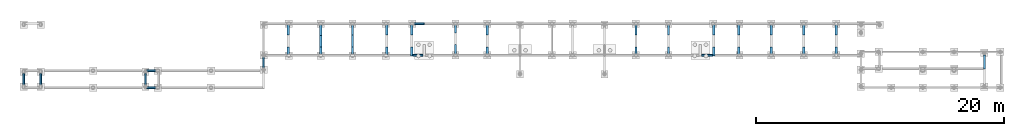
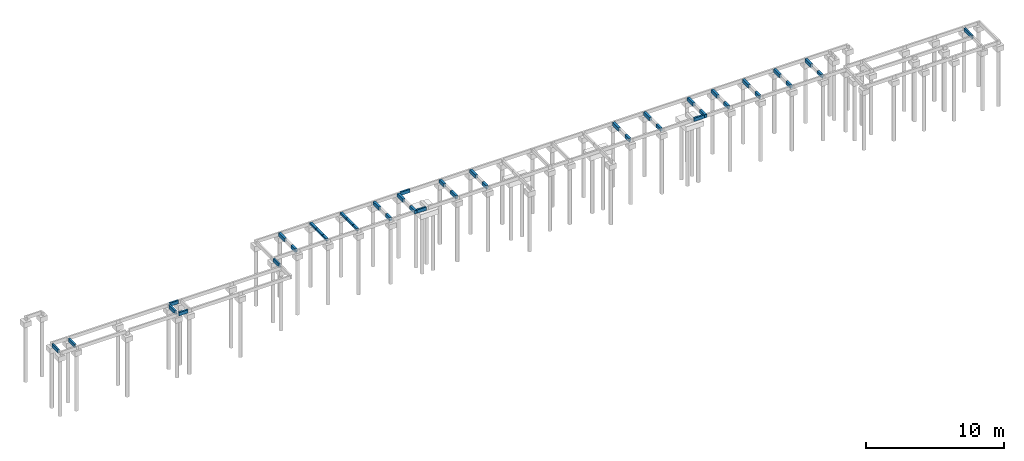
# One storey, part 5 of 6: 40 beams.
"""IFC4 building model written with IfcOpenShell, lengths in centimetres."""

from ifc_helpers import new_model, si_unit, derived_unit, frame, origin_with_axes, origin_2d_with_axis, place, context, project, spatial, rectangle, extrude, material, element, save


model = new_model("IFC4")

# Units and contexts
model_context = context("Model", 3, precision=1e-05, world=origin_with_axes(), identifier="Body")
ifc_project = project(units=[si_unit("LENGTHUNIT", "METRE", prefix="CENTI"), si_unit("VOLUMEUNIT", "CUBIC_METRE"), si_unit("AREAUNIT", "SQUARE_METRE"), si_unit("POWERUNIT", "WATT"), si_unit("LUMINOUSFLUXUNIT", "LUMEN"), si_unit("ELECTRICCURRENTUNIT", "AMPERE"), si_unit("PRESSUREUNIT", "PASCAL", prefix="KILO"), si_unit("MASSUNIT", "GRAM", prefix="KILO"), si_unit("PLANEANGLEUNIT", "RADIAN"), derived_unit("VOLUMETRICFLOWRATEUNIT", [(si_unit("LENGTHUNIT", "METRE"), 3), (si_unit("TIMEUNIT", "SECOND"), -1)])], contexts=[model_context])

# Site, building, storey
site_placement = place(None, origin_with_axes())
site = spatial("IfcSite", under=ifc_project, at=site_placement)
building_placement = place(site_placement, frame((0.0, 0.0, -170.0)))
building = spatial("IfcBuilding", under=site, at=building_placement)
storey_placement = place(building_placement, origin_with_axes())
storey = spatial("IfcBuildingStorey", under=building, at=storey_placement, Name="Baldrame", CompositionType="ELEMENT", Elevation=-170.0)

# Beams
ifc_material = material(Name="Concreto")
for number, where, z_axis, x_axis, name in (
    (1, (-898.5, 7.0, 0.0), (0.0, 0.0, 1.0), (1.0, 0.0, 0.0), "V12"),
    (2, (-898.5, -130.0, 0.0), (0.0, 0.0, 1.0), (1.0, 0.0, 0.0), "V14"),
):
    element("IfcBeam", number, at=place(storey_placement, frame(where, z_axis=z_axis, x_axis=x_axis)), inside=storey, material=ifc_material, Name=name, context=model_context, shape_type="SolidModel", body=[
        extrude(rectangle(XDim=14.0, YDim=30.0, at=origin_2d_with_axis()), frame((-38.0, 0.0, -15.0), z_axis=(1.0, 0.0, 0.0), x_axis=(0.0, -1.0, 0.0)), (0.0, 0.0, 1.0), 76.0),
    ])
for number, where, z_axis, x_axis, name in (
    (3, (-1924.5, -61.5, 0.0), (0.0, 0.0, 1.0), (1.0, 0.0, 0.0), "V16"),
    (4, (-1787.5, -61.5, 0.0), (0.0, 0.0, 1.0), (1.0, 0.0, 0.0), "V17"),
    (5, (-943.5, -61.5, 0.0), (0.0, 0.0, 1.0), (1.0, 0.0, 0.0), "V18"),
):
    element("IfcBeam", number, at=place(storey_placement, frame(where, z_axis=z_axis, x_axis=x_axis)), inside=storey, material=ifc_material, Name=name, context=model_context, shape_type="SolidModel", body=[
        extrude(rectangle(XDim=14.0, YDim=30.0, at=origin_2d_with_axis()), frame((0.0, -45.5, -15.0), z_axis=(0.0, 1.0, 0.0), x_axis=(-1.0, 0.0, 0.0)), (0.0, 0.0, 1.0), 91.0),
    ])
beam_1_placement = place(storey_placement, frame((1261.045, 385.0, 0.0), z_axis=(0.0, 0.0, 1.0), x_axis=(1.0, 0.0, 0.0)))
element("IfcBeam", 6, at=beam_1_placement, inside=storey, material=ifc_material, Name="V2", context=model_context, shape_type="SolidModel", body=[
    extrude(rectangle(XDim=14.0, YDim=30.0, at=origin_2d_with_axis()), frame((-39.515, 0.0, -15.0), z_axis=(1.0, 0.0, 0.0), x_axis=(0.0, 1.0, 0.0)), (0.0, 0.0, 1.0), 79.03),
])
beam_2_placement = place(storey_placement, frame((7.5, 73.0, 0.0), z_axis=(0.0, 0.0, 1.0), x_axis=(1.0, 0.0, 0.0)))
element("IfcBeam", 7, at=beam_2_placement, inside=storey, material=ifc_material, Name="V20", context=model_context, shape_type="SolidModel", body=[
    extrude(rectangle(XDim=14.0, YDim=30.0, at=origin_2d_with_axis()), frame((0.0, -43.0, -15.0), z_axis=(0.0, 1.0, 0.0), x_axis=(-1.0, 0.0, 0.0)), (0.0, 0.0, 1.0), 86.0),
])
beam_3_placement = place(storey_placement, frame((206.0, 168.0, 0.0), z_axis=(0.0, 0.0, 1.0), x_axis=(1.0, 0.0, 0.0)))
element("IfcBeam", 8, at=beam_3_placement, inside=storey, material=ifc_material, Name="V21", context=model_context, shape_type="SolidModel", body=[
    extrude(rectangle(XDim=19.0, YDim=30.0, at=origin_2d_with_axis()), frame((0.0, -30.0, -15.0), z_axis=(0.0, 1.0, 0.0), x_axis=(1.0, 0.0, 0.0)), (0.0, 0.0, 1.0), 60.0),
])
beam_4_placement = place(storey_placement, frame((206.0, 335.5, 0.0), z_axis=(0.0, 0.0, 1.0), x_axis=(1.0, 0.0, 0.0)))
element("IfcBeam", 9, at=beam_4_placement, inside=storey, material=ifc_material, Name="V21", context=model_context, shape_type="SolidModel", body=[
    extrude(rectangle(XDim=19.0, YDim=30.0, at=origin_2d_with_axis()), frame((0.0, -42.5, -15.0), z_axis=(0.0, 1.0, 0.0), x_axis=(1.0, 0.0, 0.0)), (0.0, 0.0, 1.0), 85.0),
])
beam_5_placement = place(storey_placement, frame((467.82, 335.0, 0.0), z_axis=(0.0, 0.0, 1.0), x_axis=(1.0, 0.0, 0.0)))
element("IfcBeam", 10, at=beam_5_placement, inside=storey, material=ifc_material, Name="V22", context=model_context, shape_type="SolidModel", body=[
    extrude(rectangle(XDim=19.0, YDim=19.0, at=origin_2d_with_axis()), frame((0.0, -43.0, -9.5), z_axis=(0.0, 1.0, 0.0), x_axis=(1.0, 0.0, 0.0)), (0.0, 0.0, 1.0), 86.0),
])
beam_6_placement = place(storey_placement, frame((467.82, 244.5, 0.0), z_axis=(0.0, 0.0, 1.0), x_axis=(1.0, 0.0, 0.0)))
element("IfcBeam", 11, at=beam_6_placement, inside=storey, material=ifc_material, Name="V22", context=model_context, shape_type="SolidModel", body=[
    extrude(rectangle(XDim=19.0, YDim=19.0, at=origin_2d_with_axis()), frame((0.0, -47.5, -9.5), z_axis=(0.0, 1.0, 0.0), x_axis=(1.0, 0.0, 0.0)), (0.0, 0.0, 1.0), 95.0),
])
beam_7_placement = place(storey_placement, frame((467.82, 167.5, 0.0), z_axis=(0.0, 0.0, 1.0), x_axis=(1.0, 0.0, 0.0)))
element("IfcBeam", 12, at=beam_7_placement, inside=storey, material=ifc_material, Name="V22", context=model_context, shape_type="SolidModel", body=[
    extrude(rectangle(XDim=19.0, YDim=19.0, at=origin_2d_with_axis()), frame((0.0, -29.5, -9.5), z_axis=(0.0, 1.0, 0.0), x_axis=(1.0, 0.0, 0.0)), (0.0, 0.0, 1.0), 59.0),
])
beam_8_placement = place(storey_placement, frame((724.14, 168.0, 0.0), z_axis=(0.0, 0.0, 1.0), x_axis=(1.0, 0.0, 0.0)))
element("IfcBeam", 13, at=beam_8_placement, inside=storey, material=ifc_material, Name="V23", context=model_context, shape_type="SolidModel", body=[
    extrude(rectangle(XDim=19.0, YDim=19.0, at=origin_2d_with_axis()), frame((0.0, -30.0, -9.5), z_axis=(0.0, 1.0, 0.0), x_axis=(1.0, 0.0, 0.0)), (0.0, 0.0, 1.0), 60.0),
])
beam_9_placement = place(storey_placement, frame((724.14, 245.5, 0.0), z_axis=(0.0, 0.0, 1.0), x_axis=(1.0, 0.0, 0.0)))
element("IfcBeam", 14, at=beam_9_placement, inside=storey, material=ifc_material, Name="V23", context=model_context, shape_type="SolidModel", body=[
    extrude(rectangle(XDim=19.0, YDim=19.0, at=origin_2d_with_axis()), frame((0.0, -47.5, -9.5), z_axis=(0.0, 1.0, 0.0), x_axis=(1.0, 0.0, 0.0)), (0.0, 0.0, 1.0), 95.0),
])
beam_10_placement = place(storey_placement, frame((724.14, 335.5, 0.0), z_axis=(0.0, 0.0, 1.0), x_axis=(1.0, 0.0, 0.0)))
element("IfcBeam", 15, at=beam_10_placement, inside=storey, material=ifc_material, Name="V23", context=model_context, shape_type="SolidModel", body=[
    extrude(rectangle(XDim=19.0, YDim=19.0, at=origin_2d_with_axis()), frame((0.0, -42.5, -9.5), z_axis=(0.0, 1.0, 0.0), x_axis=(1.0, 0.0, 0.0)), (0.0, 0.0, 1.0), 85.0),
])
beam_11_placement = place(storey_placement, frame((999.03, 168.0, 0.0), z_axis=(0.0, 0.0, 1.0), x_axis=(1.0, 0.0, 0.0)))
element("IfcBeam", 16, at=beam_11_placement, inside=storey, material=ifc_material, Name="V24", context=model_context, shape_type="SolidModel", body=[
    extrude(rectangle(XDim=19.0, YDim=30.0, at=origin_2d_with_axis()), frame((0.0, -30.0, -15.0), z_axis=(0.0, 1.0, 0.0), x_axis=(1.0, 0.0, 0.0)), (0.0, 0.0, 1.0), 60.0),
])
beam_12_placement = place(storey_placement, frame((999.03, 335.5, 0.0), z_axis=(0.0, 0.0, 1.0), x_axis=(1.0, 0.0, 0.0)))
element("IfcBeam", 17, at=beam_12_placement, inside=storey, material=ifc_material, Name="V24", context=model_context, shape_type="SolidModel", body=[
    extrude(rectangle(XDim=19.0, YDim=30.0, at=origin_2d_with_axis()), frame((0.0, -42.5, -15.0), z_axis=(0.0, 1.0, 0.0), x_axis=(1.0, 0.0, 0.0)), (0.0, 0.0, 1.0), 85.0),
])
beam_13_placement = place(storey_placement, frame((1201.03, 161.0, 0.0), z_axis=(0.0, 0.0, 1.0), x_axis=(1.0, 0.0, 0.0)))
element("IfcBeam", 18, at=beam_13_placement, inside=storey, material=ifc_material, Name="V25", context=model_context, shape_type="SolidModel", body=[
    extrude(rectangle(XDim=19.0, YDim=30.0, at=origin_2d_with_axis()), frame((0.0, -37.0, -15.0), z_axis=(0.0, 1.0, 0.0), x_axis=(1.0, 0.0, 0.0)), (0.0, 0.0, 1.0), 74.0),
])
beam_14_placement = place(storey_placement, frame((1201.03, 335.5, 0.0), z_axis=(0.0, 0.0, 1.0), x_axis=(1.0, 0.0, 0.0)))
element("IfcBeam", 19, at=beam_14_placement, inside=storey, material=ifc_material, Name="V25", context=model_context, shape_type="SolidModel", body=[
    extrude(rectangle(XDim=19.0, YDim=30.0, at=origin_2d_with_axis()), frame((0.0, -42.5, -15.0), z_axis=(0.0, 1.0, 0.0), x_axis=(1.0, 0.0, 0.0)), (0.0, 0.0, 1.0), 85.0),
])
beam_15_placement = place(storey_placement, frame((1553.92, 345.0, 0.0), z_axis=(0.0, 0.0, 1.0), x_axis=(1.0, 0.0, 0.0)))
element("IfcBeam", 20, at=beam_15_placement, inside=storey, material=ifc_material, Name="V26", context=model_context, shape_type="SolidModel", body=[
    extrude(rectangle(XDim=19.0, YDim=30.0, at=origin_2d_with_axis()), frame((0.0, 33.0, -15.0), z_axis=(0.0, -1.0, 0.0), x_axis=(1.0, 0.0, 0.0)), (0.0, 0.0, 1.0), 66.0),
])
beam_16_placement = place(storey_placement, frame((1553.92, 177.5, 0.0), z_axis=(0.0, 0.0, 1.0), x_axis=(1.0, 0.0, 0.0)))
element("IfcBeam", 21, at=beam_16_placement, inside=storey, material=ifc_material, Name="V26", context=model_context, shape_type="SolidModel", body=[
    extrude(rectangle(XDim=19.0, YDim=30.0, at=origin_2d_with_axis()), frame((0.0, 39.5, -15.0), z_axis=(0.0, -1.0, 0.0), x_axis=(1.0, 0.0, 0.0)), (0.0, 0.0, 1.0), 79.0),
])
beam_17_placement = place(storey_placement, frame((1810.24, 335.5, 0.0), z_axis=(0.0, 0.0, 1.0), x_axis=(1.0, 0.0, 0.0)))
element("IfcBeam", 22, at=beam_17_placement, inside=storey, material=ifc_material, Name="V27", context=model_context, shape_type="SolidModel", body=[
    extrude(rectangle(XDim=19.0, YDim=30.0, at=origin_2d_with_axis()), frame((0.0, -42.5, -15.0), z_axis=(0.0, 1.0, 0.0), x_axis=(1.0, 0.0, 0.0)), (0.0, 0.0, 1.0), 85.0),
])
for number, where, z_axis, x_axis, name in (
    (23, (1810.24, 168.0, 0.0), (0.0, 0.0, 1.0), (1.0, 0.0, 0.0), "V27"),
    (24, (3008.01, 168.0, 0.0), (0.0, 0.0, 1.0), (1.0, 0.0, 0.0), "V32"),
):
    element("IfcBeam", number, at=place(storey_placement, frame(where, z_axis=z_axis, x_axis=x_axis)), inside=storey, material=ifc_material, Name=name, context=model_context, shape_type="SolidModel", body=[
        extrude(rectangle(XDim=19.0, YDim=30.0, at=origin_2d_with_axis()), frame((0.0, -30.0, -15.0), z_axis=(0.0, 1.0, 0.0), x_axis=(1.0, 0.0, 0.0)), (0.0, 0.0, 1.0), 60.0),
    ])
beam_18_placement = place(storey_placement, frame((3008.01, 335.5, 0.0), z_axis=(0.0, 0.0, 1.0), x_axis=(1.0, 0.0, 0.0)))
element("IfcBeam", 25, at=beam_18_placement, inside=storey, material=ifc_material, Name="V32", context=model_context, shape_type="SolidModel", body=[
    extrude(rectangle(XDim=19.0, YDim=30.0, at=origin_2d_with_axis()), frame((0.0, -42.5, -15.0), z_axis=(0.0, 1.0, 0.0), x_axis=(1.0, 0.0, 0.0)), (0.0, 0.0, 1.0), 85.0),
])
beam_19_placement = place(storey_placement, frame((3269.95, 168.0, 0.0), z_axis=(0.0, 0.0, 1.0), x_axis=(1.0, 0.0, 0.0)))
element("IfcBeam", 26, at=beam_19_placement, inside=storey, material=ifc_material, Name="V33", context=model_context, shape_type="SolidModel", body=[
    extrude(rectangle(XDim=19.0, YDim=30.0, at=origin_2d_with_axis()), frame((0.0, -30.0, -15.0), z_axis=(0.0, 1.0, 0.0), x_axis=(1.0, 0.0, 0.0)), (0.0, 0.0, 1.0), 60.0),
])
beam_20_placement = place(storey_placement, frame((3269.95, 335.5, 0.0), z_axis=(0.0, 0.0, 1.0), x_axis=(1.0, 0.0, 0.0)))
element("IfcBeam", 27, at=beam_20_placement, inside=storey, material=ifc_material, Name="V33", context=model_context, shape_type="SolidModel", body=[
    extrude(rectangle(XDim=19.0, YDim=30.0, at=origin_2d_with_axis()), frame((0.0, -42.5, -15.0), z_axis=(0.0, 1.0, 0.0), x_axis=(1.0, 0.0, 0.0)), (0.0, 0.0, 1.0), 85.0),
])
beam_21_placement = place(storey_placement, frame((3634.59, 161.0, 0.0), z_axis=(0.0, 0.0, 1.0), x_axis=(1.0, 0.0, 0.0)))
element("IfcBeam", 28, at=beam_21_placement, inside=storey, material=ifc_material, Name="V34", context=model_context, shape_type="SolidModel", body=[
    extrude(rectangle(XDim=19.0, YDim=30.0, at=origin_2d_with_axis()), frame((0.0, -37.0, -15.0), z_axis=(0.0, 1.0, 0.0), x_axis=(1.0, 0.0, 0.0)), (0.0, 0.0, 1.0), 74.0),
])
beam_22_placement = place(storey_placement, frame((3634.59, 335.5, 0.0), z_axis=(0.0, 0.0, 1.0), x_axis=(1.0, 0.0, 0.0)))
element("IfcBeam", 29, at=beam_22_placement, inside=storey, material=ifc_material, Name="V34", context=model_context, shape_type="SolidModel", body=[
    extrude(rectangle(XDim=19.0, YDim=30.0, at=origin_2d_with_axis()), frame((0.0, -42.5, -15.0), z_axis=(0.0, 1.0, 0.0), x_axis=(1.0, 0.0, 0.0)), (0.0, 0.0, 1.0), 85.0),
])
beam_23_placement = place(storey_placement, frame((3836.59, 168.0, 0.0), z_axis=(0.0, 0.0, 1.0), x_axis=(1.0, 0.0, 0.0)))
element("IfcBeam", 30, at=beam_23_placement, inside=storey, material=ifc_material, Name="V35", context=model_context, shape_type="SolidModel", body=[
    extrude(rectangle(XDim=19.0, YDim=30.0, at=origin_2d_with_axis()), frame((0.0, -30.0, -15.0), z_axis=(0.0, 1.0, 0.0), x_axis=(1.0, 0.0, 0.0)), (0.0, 0.0, 1.0), 60.0),
])
for number, where, z_axis, x_axis, name in (
    (31, (3836.59, 335.5, 0.0), (0.0, 0.0, 1.0), (1.0, 0.0, 0.0), "V35"),
    (32, (4098.54, 335.5, 0.0), (0.0, 0.0, 1.0), (1.0, 0.0, 0.0), "V36"),
):
    element("IfcBeam", number, at=place(storey_placement, frame(where, z_axis=z_axis, x_axis=x_axis)), inside=storey, material=ifc_material, Name=name, context=model_context, shape_type="SolidModel", body=[
        extrude(rectangle(XDim=19.0, YDim=30.0, at=origin_2d_with_axis()), frame((0.0, -42.5, -15.0), z_axis=(0.0, 1.0, 0.0), x_axis=(1.0, 0.0, 0.0)), (0.0, 0.0, 1.0), 85.0),
    ])
for number, where, z_axis, x_axis, name in (
    (33, (4098.54, 168.0, 0.0), (0.0, 0.0, 1.0), (1.0, 0.0, 0.0), "V36"),
    (34, (4360.17, 168.0, 0.0), (0.0, 0.0, 1.0), (1.0, 0.0, 0.0), "V37"),
):
    element("IfcBeam", number, at=place(storey_placement, frame(where, z_axis=z_axis, x_axis=x_axis)), inside=storey, material=ifc_material, Name=name, context=model_context, shape_type="SolidModel", body=[
        extrude(rectangle(XDim=19.0, YDim=30.0, at=origin_2d_with_axis()), frame((0.0, -30.0, -15.0), z_axis=(0.0, 1.0, 0.0), x_axis=(1.0, 0.0, 0.0)), (0.0, 0.0, 1.0), 60.0),
    ])
beam_24_placement = place(storey_placement, frame((4360.17, 335.5, 0.0), z_axis=(0.0, 0.0, 1.0), x_axis=(1.0, 0.0, 0.0)))
element("IfcBeam", 35, at=beam_24_placement, inside=storey, material=ifc_material, Name="V37", context=model_context, shape_type="SolidModel", body=[
    extrude(rectangle(XDim=19.0, YDim=30.0, at=origin_2d_with_axis()), frame((0.0, -42.5, -15.0), z_axis=(0.0, 1.0, 0.0), x_axis=(1.0, 0.0, 0.0)), (0.0, 0.0, 1.0), 85.0),
])
beam_25_placement = place(storey_placement, frame((4622.12, 169.25, 0.0), z_axis=(0.0, 0.0, 1.0), x_axis=(1.0, 0.0, 0.0)))
element("IfcBeam", 36, at=beam_25_placement, inside=storey, material=ifc_material, Name="V38", context=model_context, shape_type="SolidModel", body=[
    extrude(rectangle(XDim=19.0, YDim=30.0, at=origin_2d_with_axis()), frame((0.0, -28.75, -15.0), z_axis=(0.0, 1.0, 0.0), x_axis=(1.0, 0.0, 0.0)), (0.0, 0.0, 1.0), 57.5),
])
beam_26_placement = place(storey_placement, frame((4622.12, 334.25, 0.0), z_axis=(0.0, 0.0, 1.0), x_axis=(1.0, 0.0, 0.0)))
element("IfcBeam", 37, at=beam_26_placement, inside=storey, material=ifc_material, Name="V38", context=model_context, shape_type="SolidModel", body=[
    extrude(rectangle(XDim=19.0, YDim=30.0, at=origin_2d_with_axis()), frame((0.0, -41.25, -15.0), z_axis=(0.0, 1.0, 0.0), x_axis=(1.0, 0.0, 0.0)), (0.0, 0.0, 1.0), 82.5),
])
beam_27_placement = place(storey_placement, frame((5815.12, 78.0, 0.0), z_axis=(0.0, 0.0, 1.0), x_axis=(1.0, 0.0, 0.0)))
element("IfcBeam", 38, at=beam_27_placement, inside=storey, material=ifc_material, Name="V41", context=model_context, shape_type="SolidModel", body=[
    extrude(rectangle(XDim=14.0, YDim=30.0, at=origin_2d_with_axis()), frame((0.0, -56.5, -15.0), z_axis=(0.0, 1.0, 0.0), x_axis=(1.0, 0.0, 0.0)), (0.0, 0.0, 1.0), 113.0),
])
beam_28_placement = place(storey_placement, frame((1250.545, 131.0, 0.0), z_axis=(0.0, 0.0, 1.0), x_axis=(1.0, 0.0, 0.0)))
element("IfcBeam", 39, at=beam_28_placement, inside=storey, material=ifc_material, Name="V6", context=model_context, shape_type="SolidModel", body=[
    extrude(rectangle(XDim=14.0, YDim=30.0, at=origin_2d_with_axis()), frame((-40.015, 0.0, -15.0), z_axis=(1.0, 0.0, 0.0), x_axis=(0.0, 1.0, 0.0)), (0.0, 0.0, 1.0), 80.03),
])
beam_29_placement = place(storey_placement, frame((3581.325, 131.0, 0.0), z_axis=(0.0, 0.0, 1.0), x_axis=(1.0, 0.0, 0.0)))
element("IfcBeam", 40, at=beam_29_placement, inside=storey, material=ifc_material, Name="V9", context=model_context, shape_type="SolidModel", body=[
    extrude(rectangle(XDim=14.0, YDim=30.0, at=origin_2d_with_axis()), frame((-43.765, 0.0, -15.0), z_axis=(1.0, 0.0, 0.0), x_axis=(0.0, 1.0, 0.0)), (0.0, 0.0, 1.0), 87.53),
])

save(model, "model.ifc")
